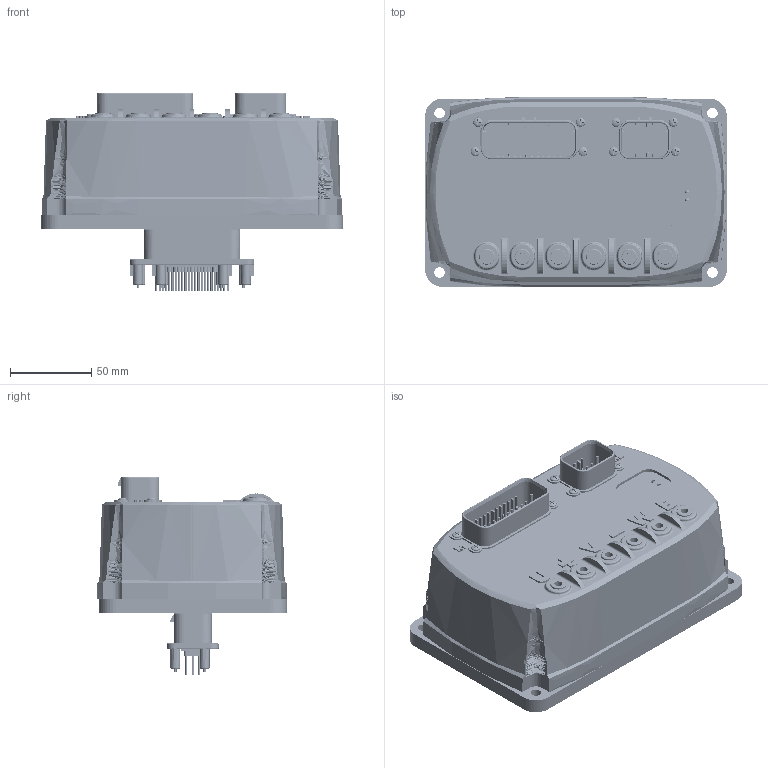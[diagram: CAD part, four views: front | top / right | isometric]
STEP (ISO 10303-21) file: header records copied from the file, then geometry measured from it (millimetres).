
FILE_DESCRIPTION( ( 'STEP AP203' ), '1' );
FILE_NAME( 'C:/Documents and Settings/Administrator/Desktop/smartris.stp', '2020-02-06T08:55:17', ( ' ' ), ( ' ' ), 'XStep 1.0', ' ', ' ' );
FILE_SCHEMA( ( 'CONFIG_CONTROL_DESIGN) ( )' ) );
Length unit declared in the file: metre
Products named in the file (19): Assem1; Assem2; Assem3; Assem4; Assem5; Assem6; Assem7; Assem8; 1; 2; 3; 4; 5; 6; 7; 8; 9; 10; 11
Bounding box: 186 x 117 x 122.3 mm (x, y, z)
Volume: 1311684.9 mm3; surface area: 640490.9 mm2
Topology: 67 solids, 67 shells, 5743 faces, 14518 edges, 9518 vertices
Faces by surface type: plane 2760, cylinder 1889, torus 563, bspline 219, cone 157, extrusion 93, revolution 62
Full cylindrical faces by diameter (mm): 1.3 x294, 1.5 x18, 2.17 x24, 2.459 x36, 3 x32, 3.5 x24, 3.7 x24, 4 x8, 4.917 x14, 5.5 x3, 5.6 x9, 6 x48, 6.5 x24, 7 x24, 8.5 x14, 9.5 x28, 10 x18
Entity records: 62113 total; most frequent: CARTESIAN_POINT 20377, DIRECTION 8488, ORIENTED_EDGE 8144, EDGE_CURVE 4072, AXIS2_PLACEMENT_3D 3180, VERTEX_POINT 2774, EDGE_LOOP 2264, VECTOR 2112
